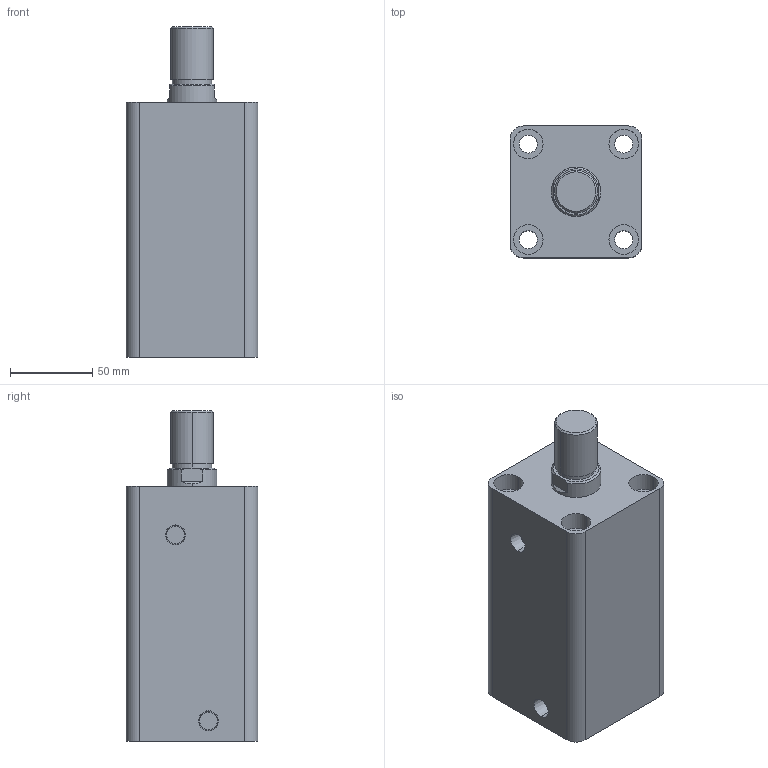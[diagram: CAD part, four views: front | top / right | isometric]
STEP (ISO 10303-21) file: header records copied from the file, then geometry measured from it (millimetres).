
FILE_DESCRIPTION (( 'STEP AP203' ), '1' );
FILE_NAME ('HTB-SD50-95W.STEP', '2019-10-07T07:23:03', ( '微软用户' ), ( '微软中国' ), 'SwSTEP 2.0', 'SolidWorks 2012', '' );
FILE_SCHEMA (( 'CONFIG_CONTROL_DESIGN' ));
Length unit declared in the file: millimetre
Products named in the file (3): HTB-SD50-95W; HTB-SD50-95W活塞杆; HTB-SD50-95掛极
Assembly tree (2 placements, depth 2):
  HTB-SD50-95W
    HTB-SD50-95掛极
    HTB-SD50-95W活塞杆
Bounding box: 80 x 80 x 201 mm (x, y, z)
Volume: 814557.8 mm3; surface area: 129616.5 mm2
Topology: 2 solids, 2 shells, 87 faces, 190 edges, 124 vertices
Faces by surface type: cylinder 44, plane 29, cone 8, torus 6
Entity records: 2761 total; most frequent: DIRECTION 478, CARTESIAN_POINT 434, ORIENTED_EDGE 380, AXIS2_PLACEMENT_3D 204, EDGE_CURVE 190, VERTEX_POINT 124, CIRCLE 112, EDGE_LOOP 112
